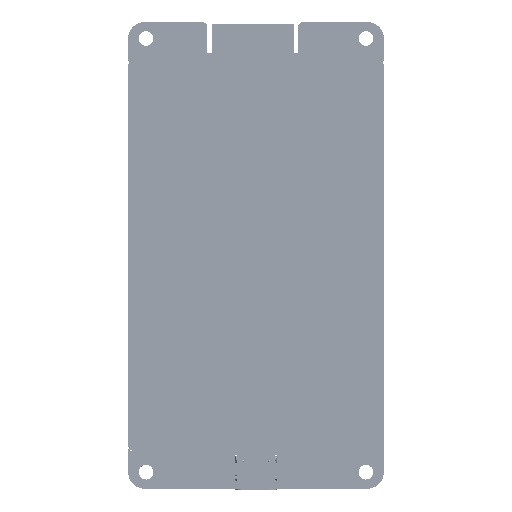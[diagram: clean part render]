
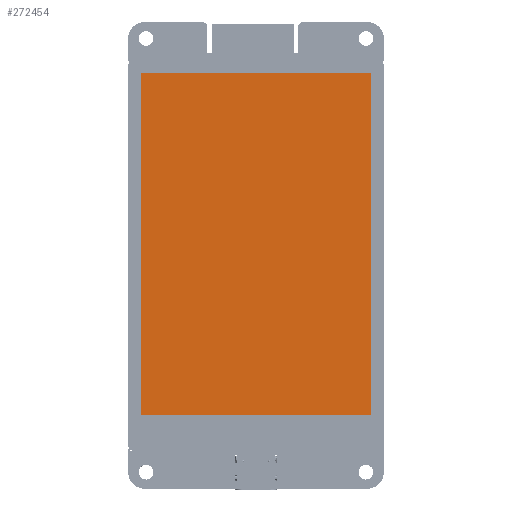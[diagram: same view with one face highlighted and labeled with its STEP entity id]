
A CAD part, top view. The second image highlights one B-rep face of the part: STEP entity #272454.
In plain terms, the highlighted planar face has unit normal (0, 0, 1).
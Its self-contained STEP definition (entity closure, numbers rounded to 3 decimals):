
#272325 = VERTEX_POINT('',#272326);
#272326 = CARTESIAN_POINT('',(-24.98,37.272,1.2));
#272332 = EDGE_CURVE('',#272325,#272333,#272335,.T.);
#272333 = VERTEX_POINT('',#272334);
#272334 = CARTESIAN_POINT('',(24.98,37.272,1.2));
#272335 = LINE('',#272336,#272337);
#272336 = CARTESIAN_POINT('',(-24.98,37.272,1.2));
#272337 = VECTOR('',#272338,1.);
#272338 = DIRECTION('',(1.,0.,0.));
#272363 = EDGE_CURVE('',#272333,#272364,#272366,.T.);
#272364 = VERTEX_POINT('',#272365);
#272365 = CARTESIAN_POINT('',(24.98,-37.272,1.2));
#272366 = LINE('',#272367,#272368);
#272367 = CARTESIAN_POINT('',(24.98,37.272,1.2));
#272368 = VECTOR('',#272369,1.);
#272369 = DIRECTION('',(0.,-1.,0.));
#272394 = EDGE_CURVE('',#272364,#272395,#272397,.T.);
#272395 = VERTEX_POINT('',#272396);
#272396 = CARTESIAN_POINT('',(-24.98,-37.272,1.2));
#272397 = LINE('',#272398,#272399);
#272398 = CARTESIAN_POINT('',(24.98,-37.272,1.2));
#272399 = VECTOR('',#272400,1.);
#272400 = DIRECTION('',(-1.,0.,0.));
#272425 = EDGE_CURVE('',#272395,#272325,#272426,.T.);
#272426 = LINE('',#272427,#272428);
#272427 = CARTESIAN_POINT('',(-24.98,-37.272,1.2));
#272428 = VECTOR('',#272429,1.);
#272429 = DIRECTION('',(0.,1.,0.));
#272454 = ADVANCED_FACE('',(#272455),#272461,.T.);
#272455 = FACE_BOUND('',#272456,.F.);
#272456 = EDGE_LOOP('',(#272457,#272458,#272459,#272460));
#272457 = ORIENTED_EDGE('',*,*,#272332,.T.);
#272458 = ORIENTED_EDGE('',*,*,#272363,.T.);
#272459 = ORIENTED_EDGE('',*,*,#272394,.T.);
#272460 = ORIENTED_EDGE('',*,*,#272425,.T.);
#272461 = PLANE('',#272462);
#272462 = AXIS2_PLACEMENT_3D('',#272463,#272464,#272465);
#272463 = CARTESIAN_POINT('',(-24.98,37.272,1.2));
#272464 = DIRECTION('',(0.,0.,1.));
#272465 = DIRECTION('',(1.,0.,0.));
